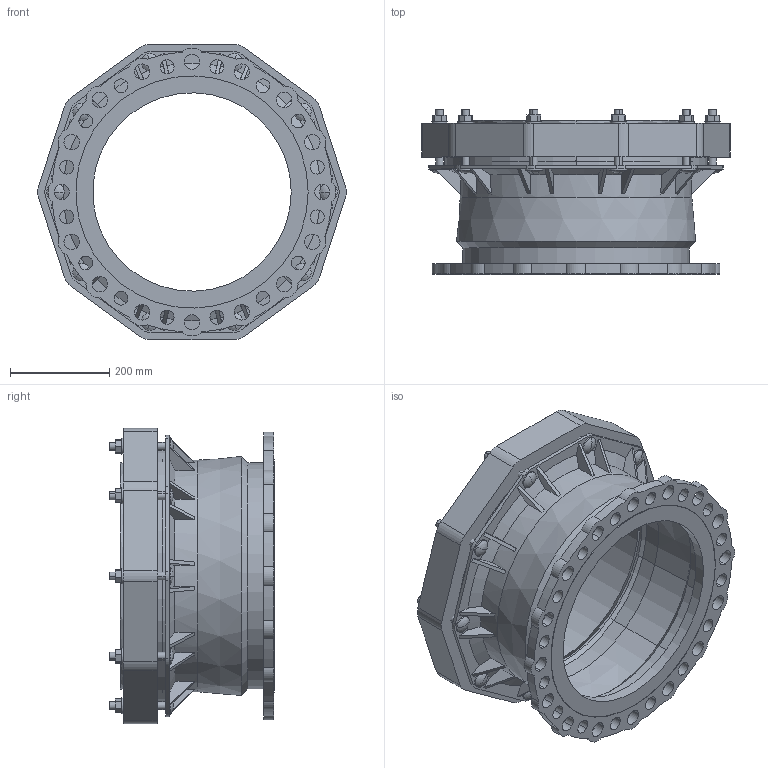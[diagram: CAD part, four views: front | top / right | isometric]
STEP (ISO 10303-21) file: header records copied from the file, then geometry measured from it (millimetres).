
FILE_DESCRIPTION((''),'2;1');
FILE_NAME('BIM_13199_14_ASM','2020-04-01T',('MReader'),(''),'CREO PARAMETRIC BY PTC INC, 2016130','CREO PARAMETRIC BY PTC INC, 2016130','');
FILE_SCHEMA(('CONFIG_CONTROL_DESIGN'));
Length unit declared in the file: millimetre
Products named in the file (5): NEW_BIM_13079; BIM_13075_; BIM_CDX_BOLT_120; BIM_13129_12; BIM_13199_14_ASM
Assembly tree (13 placements, depth 2):
  BIM_13199_14_ASM
    NEW_BIM_13079
    BIM_13075_
    BIM_CDX_BOLT_120  x10
    BIM_13129_12
Bounding box: 622.19 x 332.5 x 595.27 mm (x, y, z)
Volume: 15003743.1 mm3; surface area: 1987651.6 mm2
Topology: 13 solids, 13 shells, 565 faces, 1508 edges, 984 vertices
Faces by surface type: plane 271, cylinder 212, cone 62, sphere 20
Entity records: 16297 total; most frequent: CARTESIAN_POINT 2996, DIRECTION 2784, ORIENTED_EDGE 2724, EDGE_CURVE 1362, AXIS2_PLACEMENT_3D 971, VERTEX_POINT 903, VECTOR 842, LINE 842
